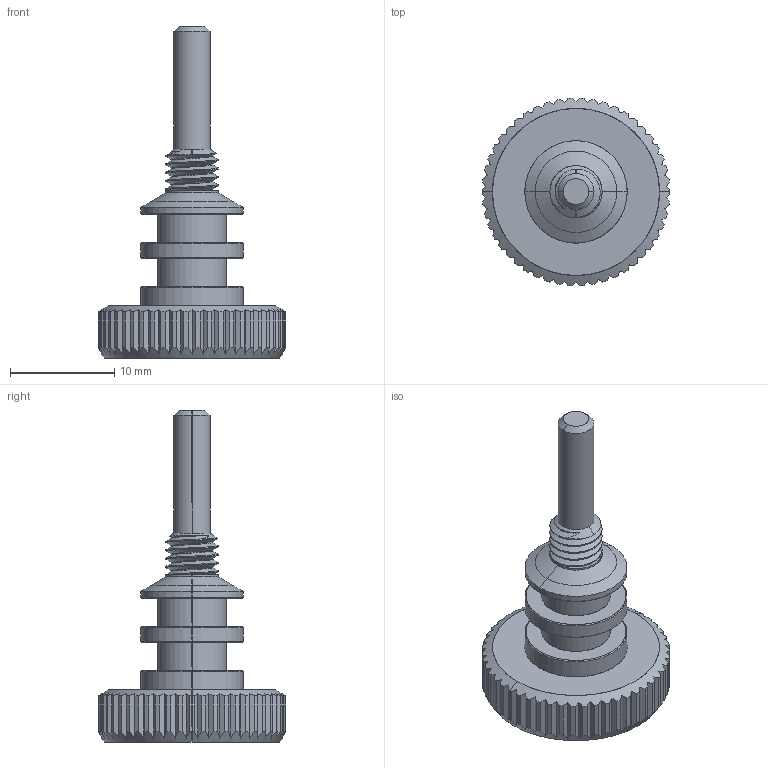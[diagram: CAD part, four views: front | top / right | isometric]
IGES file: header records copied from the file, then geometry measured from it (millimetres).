
Start section: SolidWorks IGES file using analytic representation for surfaces
Global section: file name: C:\Users\Adam\Dropbox\BR-Engineering\Models\BUTTON-X1\SWITCH-M-DIAL-10-A-X1.IGS; native system: SolidWorks 2014; preprocessor: SolidWorks 2014; author: Adam; date: 161024.102750; units: millimetre
Bounding box: 18 x 17.99 x 31.8 mm (x, y, z)
Surface area: 1413.6 mm2 (no closed solid volume)
Topology: 0 solids, 0 shells, 205 faces, 1751 edges, 1751 vertices
Faces by surface type: bspline 111, revolution 94
